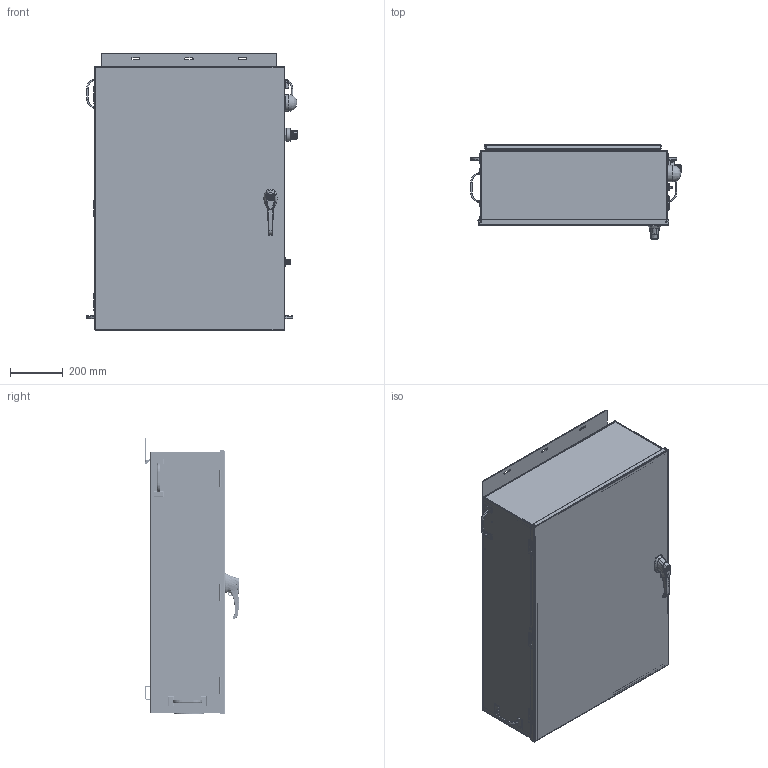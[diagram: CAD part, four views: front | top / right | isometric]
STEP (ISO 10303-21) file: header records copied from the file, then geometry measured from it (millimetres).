
FILE_DESCRIPTION(/* description */ ('','CAx-IF Rec.Pracs.---Representation and Presentation of Product Manufacturing Information (PMI)---4.0---2014-10-13'),/* implementation_level */ '2;1');
FILE_NAME(/* name */ 'C:\Vault Local\Designs\CAD\Manufacturing\ECS Products\PGEN Nitrogen Generators\PGEN-10G\Export\PGEN-10G.stp',/* time_stamp */ '2021-04-29T11:49:03-05:00',/* author */ ('myoung'),/* organization */ (''),/* preprocessor_version */ 'ST-DEVELOPER v18.1',/* originating_system */ 'Autodesk Inventor 2020',/* authorisation */ '');
FILE_SCHEMA (('AP242_MANAGED_MODEL_BASED_3D_ENGINEERING_MIM_LF { 1 0 10303 442 1 1 4 }'));
Products named in the file (1): PGEN-10G_Shrinkwrap_1
Bounding box: 798.26 x 356.45 x 1049.21 mm (x, y, z)
Volume: 5578891.8 mm3; surface area: 5520687 mm2
Topology: 66 solids, 67 shells, 6111 faces, 15856 edges, 9987 vertices
Faces by surface type: plane 2538, cylinder 1781, bspline 1266, torus 273, cone 185, sphere 68
Full cylindrical faces by diameter (mm): 1.8 x24, 2 x2, 2.02 x28, 2.286 x6, 2.311 x8, 2.54 x8, 2.845 x18, 2.997 x2, 3.175 x3, 3.5 x7, 3.8 x2, 4.1 x3, 4.496 x8, 5 x1, 5.156 x4, 5.563 x2, 6.35 x18, 6.6 x2, 7 x1, 7.112 x2, 7.2 x2, 8 x2, 8.4 x1, 8.458 x6, 9.9 x1, 10 x1, 11.112 x1, 11.8 x1, 11.9 x2, 12 x1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
Entity records: 287313 total; most frequent: CARTESIAN_POINT 138128, ORIENTED_EDGE 31706, DIRECTION 27352, EDGE_CURVE 15853, VERTEX_POINT 9987, AXIS2_PLACEMENT_3D 9494, LINE 8364, VECTOR 8364
